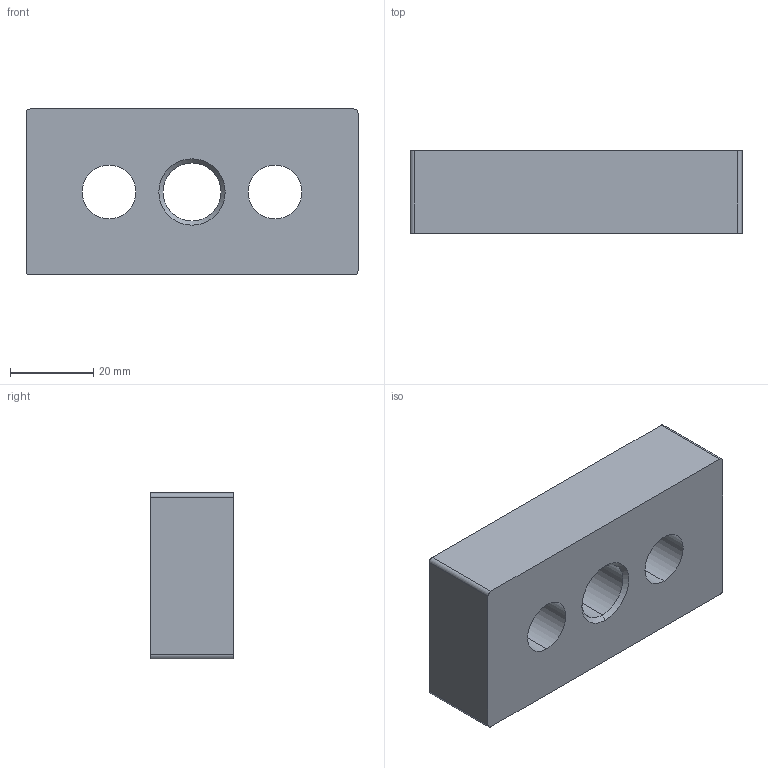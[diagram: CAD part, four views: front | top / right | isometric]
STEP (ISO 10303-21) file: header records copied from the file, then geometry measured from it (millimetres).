
FILE_DESCRIPTION (( 'STEP AP203' ), '1' );
FILE_NAME ('TCFE 40x80 M16 End plate M16 40x80 (01-06-2021).STEP', '2021-06-01T06:12:05', ( '' ), ( '' ), 'SwSTEP 2.0', 'SolidWorks 2020', '' );
FILE_SCHEMA (( 'CONFIG_CONTROL_DESIGN' ));
Length unit declared in the file: millimetre
Products named in the file (1): TCFE 40x80 M16 End plate M16 40x80 (01-06-2021)
Bounding box: 80 x 20 x 40 mm (x, y, z)
Volume: 52242.7 mm3; surface area: 13202.1 mm2
Topology: 1 solids, 1 shells, 42 faces, 110 edges, 64 vertices
Faces by surface type: cone 20, cylinder 14, plane 8
Entity records: 1287 total; most frequent: DIRECTION 228, CARTESIAN_POINT 201, ORIENTED_EDGE 188, EDGE_CURVE 94, AXIS2_PLACEMENT_3D 91, VERTEX_POINT 64, EDGE_LOOP 58, CIRCLE 48
